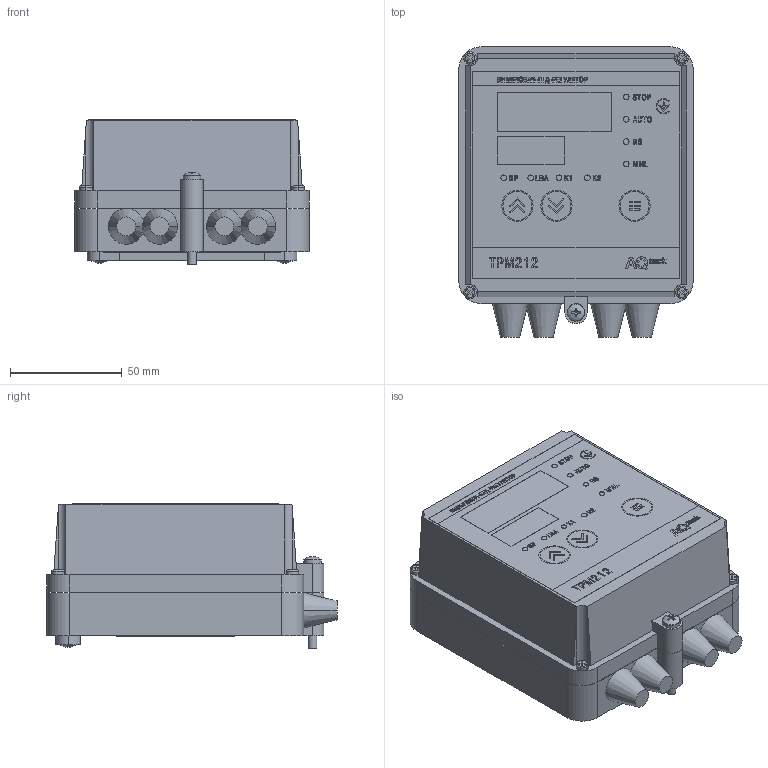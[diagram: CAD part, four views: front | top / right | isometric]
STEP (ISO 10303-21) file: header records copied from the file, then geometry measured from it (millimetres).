
FILE_DESCRIPTION (( 'STEP AP214' ), '1' );
FILE_NAME ('ﾒﾐﾌ212-ﾍ.ﾐﾐ [U03].STEP', '2025-01-22T12:23:21', ( '' ), ( '' ), 'SwSTEP 2.0', 'SolidWorks 2019', '' );
FILE_SCHEMA (( 'AUTOMOTIVE_DESIGN' ));
Length unit declared in the file: millimetre
Products named in the file (6): M4 x 0.7 x 40 Type I Cross Recessed PHMS; ﾒﾐﾌ212-ﾍ.ﾐﾐ [U03]; Êîðïóñ ÒÐÌ212-Í; Êð³ïëåííÿ; AQ_TRM212_001F01M; B18.6.7M - M4 x 0.7 x 40 Type I Cross Recessed PHMS --40N^ﾒﾐﾌ1-ﾍ.ﾓ.ﾐ [U01]
Assembly tree (6 placements, depth 2):
  ﾒﾐﾌ212-ﾍ.ﾐﾐ [U03]
    M4 x 0.7 x 40 Type I Cross Recessed PHMS  x2
    B18.6.7M - M4 x 0.7 x 40 Type I Cross Recessed PHMS --40N^ﾒﾐﾌ1-ﾍ.ﾓ.ﾐ [U01]
    AQ_TRM212_001F01M
    Êîðïóñ ÒÐÌ212-Í
    Êð³ïëåííÿ
Bounding box: 105 x 130 x 64.62 mm (x, y, z)
Volume: 666262.7 mm3; surface area: 110405.9 mm2
Topology: 278 solids, 278 shells, 4282 faces, 11104 edges, 7388 vertices
Faces by surface type: plane 2922, bspline 1207, cylinder 131, torus 11, cone 8, sphere 3
Full cylindrical faces by diameter (mm): 1.274 x2, 2.5 x16, 3.268 x4, 4 x3, 8 x3, 13 x6, 14 x3
Entity records: 183875 total; most frequent: CARTESIAN_POINT 38522, ORIENTED_EDGE 22050, DIRECTION 15033, EDGE_CURVE 11025, VECTOR 8263, LINE 8263, VERTEX_POINT 7364, EDGE_LOOP 4567
